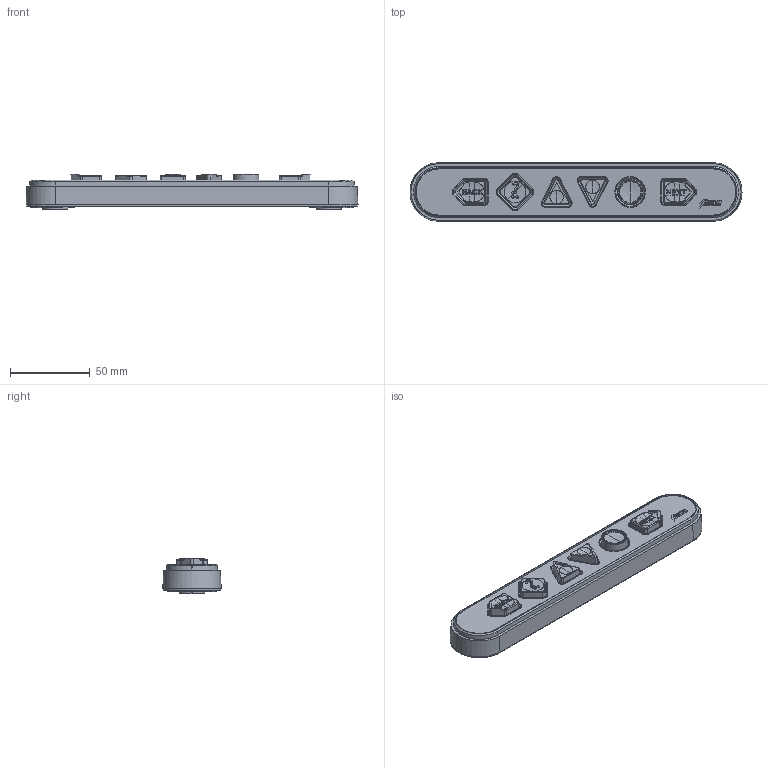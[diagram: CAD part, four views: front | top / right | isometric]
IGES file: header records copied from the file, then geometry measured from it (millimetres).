
Start section: SolidWorks IGES file using analytic representation for surfaces
Global section: file name: C:\Users\rayc\Desktop\EZB6-43000~1.IGS; native system: SolidWorks 2016; preprocessor: SolidWorks 2016; author: rayc; date: 160930.110155; units: millimetre
Bounding box: 207.6 x 36.6 x 22.51 mm (x, y, z)
Surface area: 43046.1 mm2 (no closed solid volume)
Topology: 0 solids, 0 shells, 869 faces, 11244 edges, 11239 vertices
Faces by surface type: bspline 579, revolution 290
